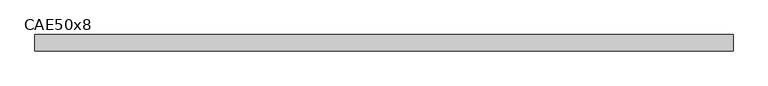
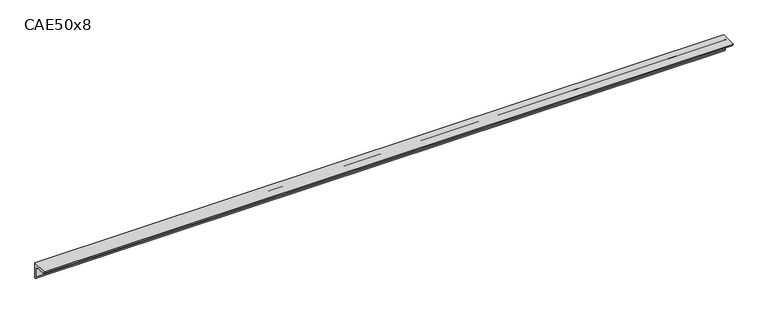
"""IFC4 building model written with IfcOpenShell, lengths in millimetres: beam geometry, L-Cornières : CAE50x8."""

from ifc_helpers import new_model, si_unit, point, frame, frame_2d, origin, place, context, project, spatial, polyline, circle_curve, trimmed, segment, composite_curve, outline, extrude, source, transform, mapped, element, save


def cae50x8_3c5c667f(model_context):
    return source(origin(), model_context, "Body", "SweptSolid", [
        extrude(outline(composite_curve([segment(polyline([(15.2, 15.2), (15.2, -34.8)]), True, "CONTINUOUS"), segment(trimmed(circle_curve(frame_2d((15.2, -26.8)), 8.0), [point((15.2, -34.8))], [point((7.2, -26.8))], False, "CARTESIAN"), True, "CONTINUOUS"), segment(polyline([(7.2, -26.8), (7.2, -0.8)]), True, "CONTINUOUS"), segment(trimmed(circle_curve(frame_2d((-0.8, -0.8)), 8.0), [point((7.2, -0.8))], [point((-0.8, 7.2))], True, "CARTESIAN"), True, "CONTINUOUS"), segment(polyline([(-0.8, 7.2), (-26.8, 7.2)]), True, "CONTINUOUS"), segment(trimmed(circle_curve(frame_2d((-26.8, 15.2)), 8.0), [point((-26.8, 7.2))], [point((-34.8, 15.2))], False, "CARTESIAN"), True, "CONTINUOUS"), segment(polyline([(-34.8, 15.2), (15.2, 15.2)]), True, "CONTINUOUS")], self_intersect=False)), frame((-1113.0, 0.0, 0.0), z_axis=(1.0, 0.0, 0.0), x_axis=(0.0, 1.0, 0.0)), (0.0, 0.0, 1.0), 2136.0),
    ])


if __name__ == "__main__":
    model = new_model("IFC4")
    model_context = context("Model", 3, world=origin())
    ifc_project = project(units=[si_unit("LENGTHUNIT", "METRE", prefix="MILLI")], contexts=[model_context])
    site = spatial("IfcSite", under=ifc_project)
    building = spatial("IfcBuilding", under=site)
    placement = place(None, origin())
    cae50x8_shape = cae50x8_3c5c667f(model_context)
    element("IfcBeam", 1, ObjectType="L-Cornières : CAE50x8", at=placement, inside=building, context=model_context, shape_type="MappedRepresentation", body=[
        mapped(cae50x8_shape, transform((0.0, 0.0, 0.0), x_axis=(1.0, 0.0, 0.0), y_axis=(0.0, 1.0, 0.0), z_axis=(0.0, 0.0, 1.0))),
    ])
    save(model, "model.ifc")
